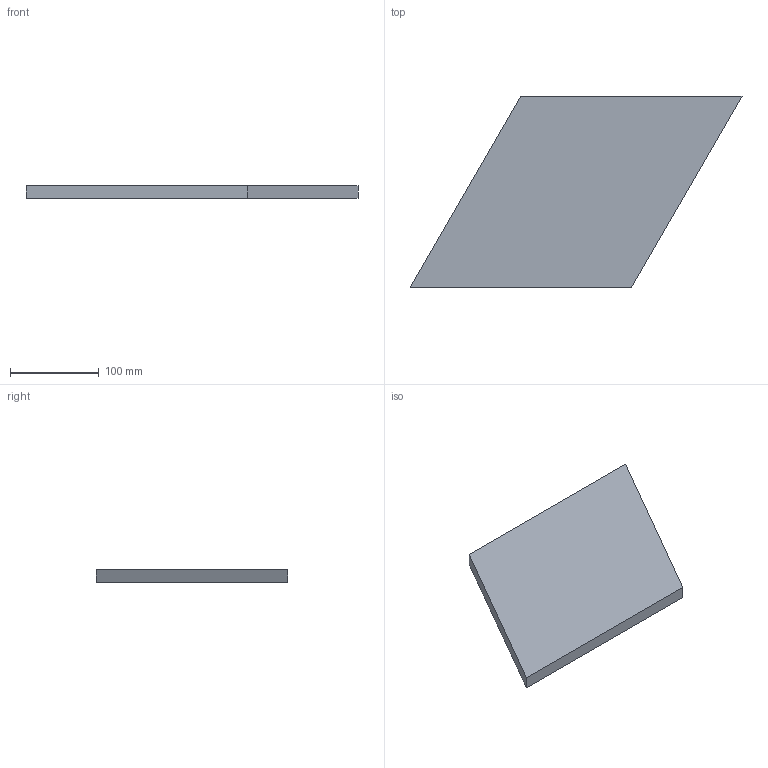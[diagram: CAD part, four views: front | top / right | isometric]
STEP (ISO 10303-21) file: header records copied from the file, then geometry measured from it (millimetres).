
FILE_DESCRIPTION(/* description */ (''),/* implementation_level */ '2;1');
FILE_NAME(/* name */ 'F02_CARO',/* time_stamp */ '2022-11-14T20:27:56+01:00',/* author */ (''),/* organization */ (''),/* preprocessor_version */ 'ST-DEVELOPER v15',/* originating_system */ '',/* authorisation */ '');
FILE_SCHEMA (('AUTOMOTIVE_DESIGN'));
Length unit declared in the file: millimetre
Products named in the file (1): Document
Bounding box: 375 x 216.51 x 14 mm (x, y, z)
Volume: 757772.2 mm3; surface area: 122253.2 mm2
Topology: 1 solids, 1 shells, 6 faces, 12 edges, 8 vertices
Faces by surface type: plane 6
Entity records: 157 total; most frequent: CARTESIAN_POINT 40, ORIENTED_EDGE 24, EDGE_CURVE 12, B_SPLINE_CURVE_WITH_KNOTS 12, DIRECTION 10, VERTEX_POINT 8, AXIS2_PLACEMENT_3D 8, ADVANCED_FACE 6
